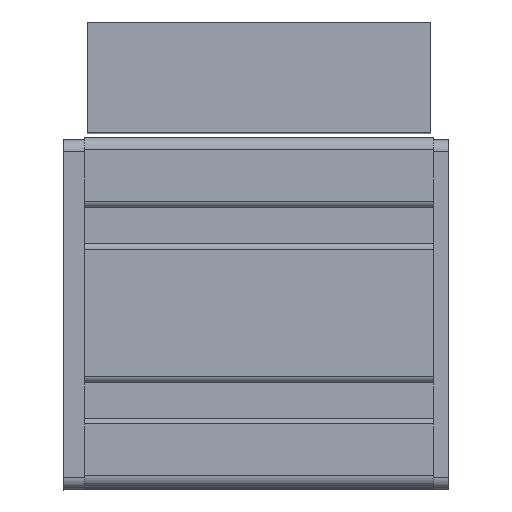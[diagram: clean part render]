
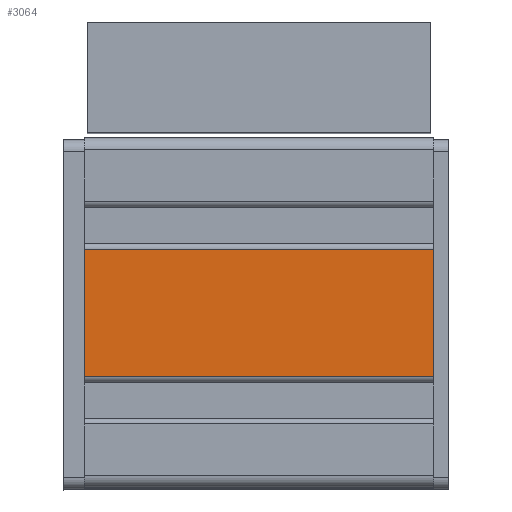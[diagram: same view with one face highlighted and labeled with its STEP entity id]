
A CAD part, top view. The second image highlights one B-rep face of the part: STEP entity #3064.
In plain terms, the highlighted planar face has unit normal (0, 0, 1) as drawn and (1, 0, 0) by its records, which use the part's own axes.
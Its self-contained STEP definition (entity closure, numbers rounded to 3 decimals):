
#611 = LINE ( 'NONE', #7411, #3320 ) ;
#1873 = DIRECTION ( 'NONE',  ( 0., 0., 1. ) ) ;
#1938 = ORIENTED_EDGE ( 'NONE', *, *, #9661, .T. ) ;
#2020 = VECTOR ( 'NONE', #1873, 1000. ) ;
#2308 = DIRECTION ( 'NONE',  ( 0., 0., 1. ) ) ;
#2604 = VERTEX_POINT ( 'NONE', #7365 ) ;
#3064 = ADVANCED_FACE ( 'NONE', ( #10000 ), #11467, .T. ) ;
#3124 = DIRECTION ( 'NONE',  ( 0., 0., 1. ) ) ;
#3178 = LINE ( 'NONE', #7276, #2020 ) ;
#3275 = DIRECTION ( 'NONE',  ( 1., 0., 0. ) ) ;
#3320 = VECTOR ( 'NONE', #11253, 1000. ) ;
#3390 = ORIENTED_EDGE ( 'NONE', *, *, #17132, .T. ) ;
#4086 = VECTOR ( 'NONE', #16369, 1000. ) ;
#4798 = VECTOR ( 'NONE', #3124, 1000. ) ;
#5094 = VERTEX_POINT ( 'NONE', #13460 ) ;
#5739 = LINE ( 'NONE', #9761, #4798 ) ;
#5889 = EDGE_LOOP ( 'NONE', ( #13802, #13052, #1938, #3390 ) ) ;
#7087 = CARTESIAN_POINT ( 'NONE',  ( 30., -10.9, 0. ) ) ;
#7276 = CARTESIAN_POINT ( 'NONE',  ( 30., -10.9, 0. ) ) ;
#7365 = CARTESIAN_POINT ( 'NONE',  ( 30., 10.9, 0. ) ) ;
#7411 = CARTESIAN_POINT ( 'NONE',  ( 30., -10.9, 0. ) ) ;
#7444 = VERTEX_POINT ( 'NONE', #7087 ) ;
#9661 = EDGE_CURVE ( 'NONE', #7444, #2604, #611, .T. ) ;
#9761 = CARTESIAN_POINT ( 'NONE',  ( 30., 10.9, 0. ) ) ;
#10000 = FACE_OUTER_BOUND ( 'NONE', #5889, .T. ) ;
#10023 = VERTEX_POINT ( 'NONE', #16982 ) ;
#11036 = CARTESIAN_POINT ( 'NONE',  ( 30., -10.9, 60. ) ) ;
#11253 = DIRECTION ( 'NONE',  ( 0., 1., 0. ) ) ;
#11467 = PLANE ( 'NONE',  #13901 ) ;
#12733 = EDGE_CURVE ( 'NONE', #10023, #5094, #13750, .T. ) ;
#13052 = ORIENTED_EDGE ( 'NONE', *, *, #15412, .F. ) ;
#13460 = CARTESIAN_POINT ( 'NONE',  ( 30., -10.9, 60. ) ) ;
#13750 = LINE ( 'NONE', #11036, #4086 ) ;
#13802 = ORIENTED_EDGE ( 'NONE', *, *, #12733, .T. ) ;
#13901 = AXIS2_PLACEMENT_3D ( 'NONE', #15324, #3275, #2308 ) ;
#15324 = CARTESIAN_POINT ( 'NONE',  ( 30., 10.9, 0. ) ) ;
#15412 = EDGE_CURVE ( 'NONE', #7444, #5094, #3178, .T. ) ;
#16369 = DIRECTION ( 'NONE',  ( 0., -1., 0. ) ) ;
#16982 = CARTESIAN_POINT ( 'NONE',  ( 30., 10.9, 60. ) ) ;
#17132 = EDGE_CURVE ( 'NONE', #2604, #10023, #5739, .T. ) ;
